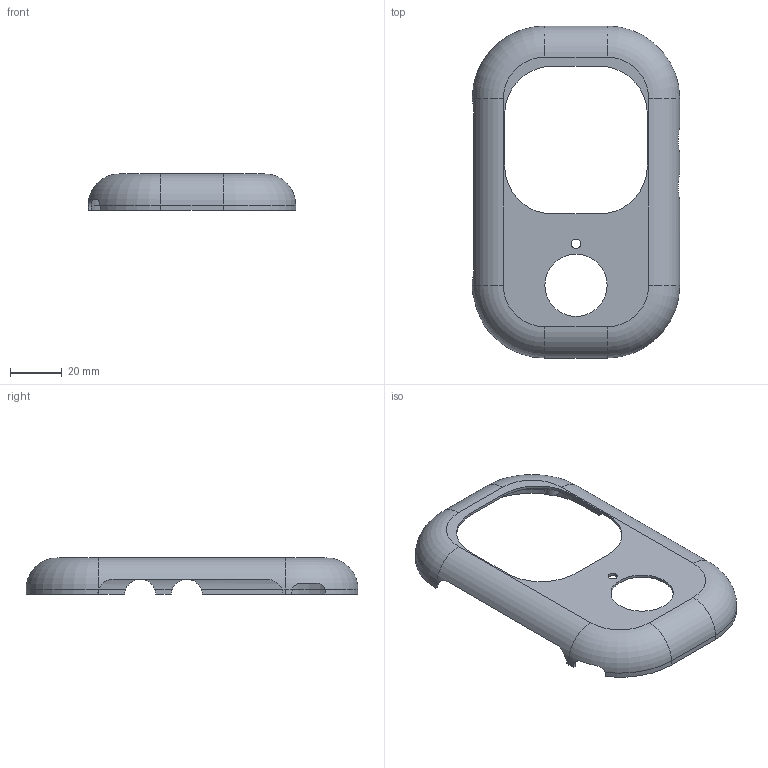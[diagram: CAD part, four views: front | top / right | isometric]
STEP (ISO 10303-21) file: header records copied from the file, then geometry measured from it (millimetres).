
FILE_DESCRIPTION(('Open CASCADE Model'),'2;1');
FILE_NAME('Open CASCADE Shape Model','2026-09-08T13:32:07',('Author'),( 'Open CASCADE'),'Open CASCADE STEP processor 7.7','Open CASCADE 7.7' ,'Unknown');
FILE_SCHEMA(('AUTOMOTIVE_DESIGN { 1 0 10303 214 1 1 1 1 }'));
Length unit declared in the file: millimetre
Products named in the file (1): Open CASCADE STEP translator 7.7 19
Bounding box: 80 x 128 x 13.95 mm (x, y, z)
Volume: 8988 mm3; surface area: 18235.6 mm2
Topology: 1 solids, 1 shells, 80 faces, 194 edges, 124 vertices
Faces by surface type: cylinder 38, plane 34, torus 8
Full cylindrical faces by diameter (mm): 2 x4, 3.6 x1, 5.6 x4, 24 x1
Entity records: 7873 total; most frequent: CARTESIAN_POINT 4070, DIRECTION 688, ORIENTED_EDGE 388, PCURVE 388, DEFINITIONAL_REPRESENTATION 388, LINE 336, VECTOR 336, EDGE_CURVE 194
